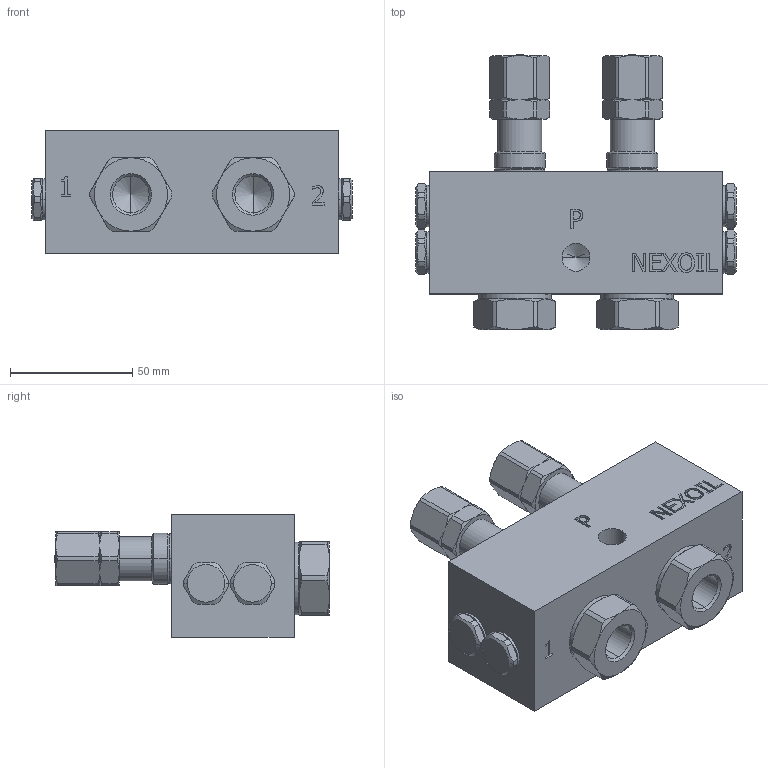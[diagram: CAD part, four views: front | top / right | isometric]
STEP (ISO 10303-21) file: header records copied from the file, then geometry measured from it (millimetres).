
FILE_DESCRIPTION((''),'2;1');
FILE_NAME('5057004_3D.stp','2017-05-31T13:46:25',(''),(''),'Mechanical Desktop 2008','Mechanical Desktop 2008',', , ');
FILE_SCHEMA(('AUTOMOTIVE_DESIGN { 1 2 10303 214 1 1 1 1 }'));
Length unit declared in the file: millimetre
Products named in the file (5): 5057004_3D; PART1; PART2; PART3; PART4
Assembly tree (9 placements, depth 2):
  5057004_3D
    PART1
    PART2  x2
    PART3  x2
    PART4  x4
Bounding box: 131 x 112.48 x 50 mm (x, y, z)
Volume: 336375.5 mm3; surface area: 57832.6 mm2
Topology: 9 solids, 9 shells, 546 faces, 1403 edges, 896 vertices
Faces by surface type: plane 188, cone 136, cylinder 132, bspline 90
Entity records: 11397 total; most frequent: CARTESIAN_POINT 3195, ORIENTED_EDGE 1836, DIRECTION 1429, EDGE_CURVE 918, VERTEX_POINT 599, VECTOR 491, LINE 491, AXIS2_PLACEMENT_3D 469
